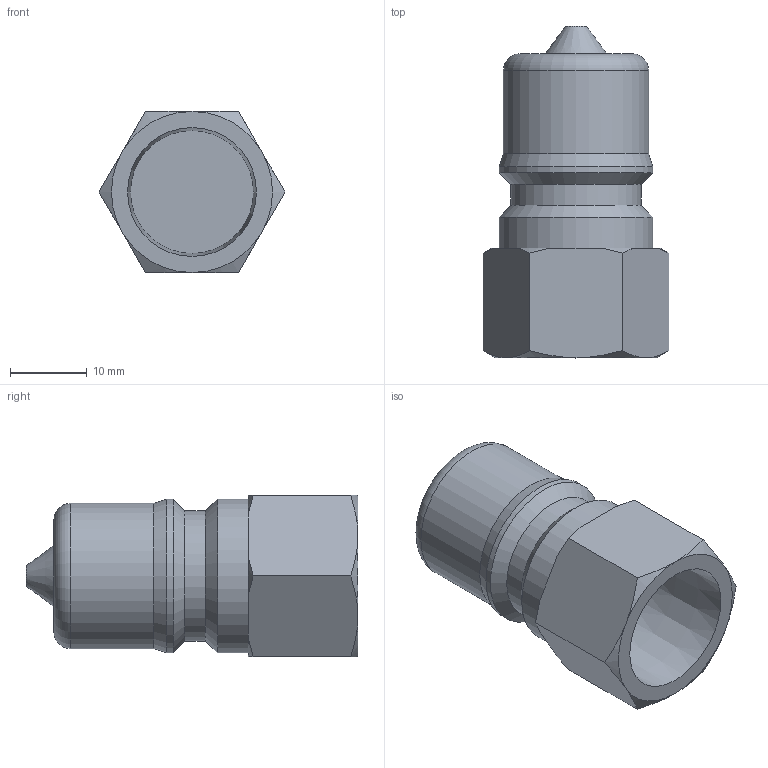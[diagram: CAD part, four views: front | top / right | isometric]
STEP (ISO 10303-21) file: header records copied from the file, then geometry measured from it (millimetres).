
FILE_DESCRIPTION((''),'2;1');
FILE_NAME('D:\INVENTOR\[New Inventor]\CDC Products 3D Ass''y\Couplers\SP\P\SP 03P.stp','2009-04-28T16:27:20',('Microsoft'),(''),'Autodesk Inventor 2008','Autodesk Inventor 2008','');
FILE_SCHEMA(('AUTOMOTIVE_DESIGN { 1 0 10303 214 1 1 1 1 }'));
Length unit declared in the file: millimetre
Products named in the file (1): SP 03P
Bounding box: 24.25 x 43.26 x 21 mm (x, y, z)
Volume: 10089 mm3; surface area: 3903.5 mm2
Topology: 1 solids, 1 shells, 35 faces, 75 edges, 45 vertices
Faces by surface type: cone 17, plane 11, cylinder 5, torus 2
Full cylindrical faces by diameter (mm): 8 x1, 17 x1, 18.95 x1, 20.05 x2
Entity records: 878 total; most frequent: CARTESIAN_POINT 192, DIRECTION 138, ORIENTED_EDGE 126, AXIS2_PLACEMENT_3D 63, EDGE_CURVE 63, EDGE_LOOP 50, VERTEX_POINT 45, FACE_OUTER_BOUND 35
